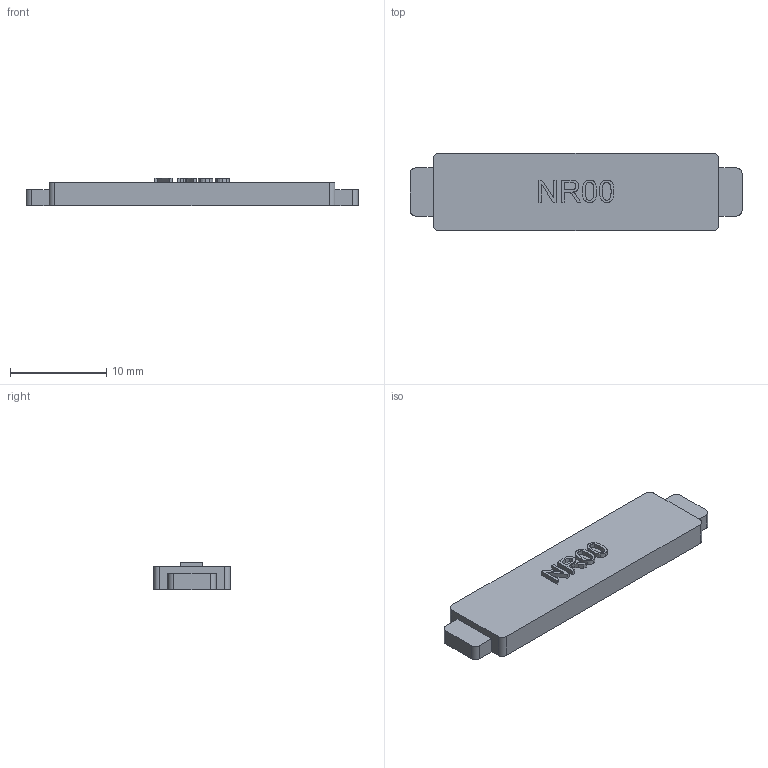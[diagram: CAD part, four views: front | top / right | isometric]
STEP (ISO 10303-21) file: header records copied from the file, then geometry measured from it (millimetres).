
FILE_DESCRIPTION(('Open CASCADE Model'),'2;1');
FILE_NAME('Open CASCADE Shape Model','1970-01-01T00:00:00',('Author'),( 'Open CASCADE'),'Open CASCADE STEP processor 7.8','Open CASCADE 7.8' ,'Unknown');
FILE_SCHEMA(('AUTOMOTIVE_DESIGN { 1 0 10303 214 1 1 1 1 }'));
Length unit declared in the file: millimetre
Products named in the file (2): Open CASCADE STEP translator 7.8 20; NR00K neck keeper bar
Assembly tree (1 placements, depth 2):
  Open CASCADE STEP translator 7.8 20
    NR00K neck keeper bar
Bounding box: 34.5 x 8 x 2.88 mm (x, y, z)
Volume: 612.6 mm3; surface area: 738.6 mm2
Topology: 1 solids, 1 shells, 106 faces, 291 edges, 194 vertices
Faces by surface type: extrusion 56, plane 42, cylinder 8
Entity records: 8107 total; most frequent: CARTESIAN_POINT 2831, DIRECTION 711, ORIENTED_EDGE 582, PCURVE 582, DEFINITIONAL_REPRESENTATION 582, VECTOR 563, LINE 507, B_SPLINE_CURVE_WITH_KNOTS 390
